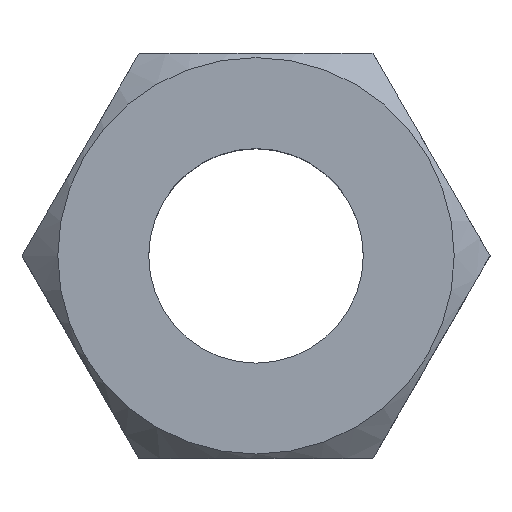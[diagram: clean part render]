
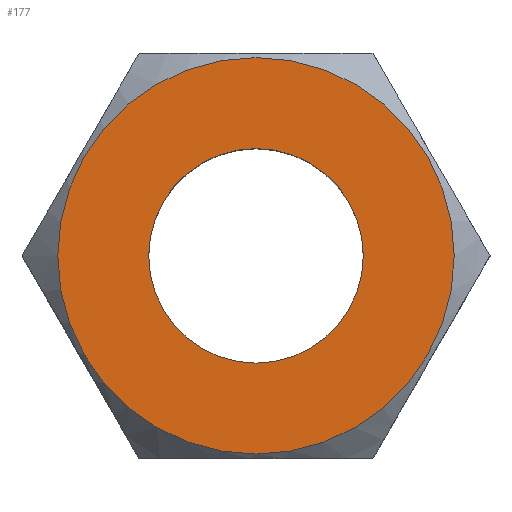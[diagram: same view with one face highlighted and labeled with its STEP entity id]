
A CAD part, top view. The second image highlights one B-rep face of the part: STEP entity #177.
In plain terms, the highlighted planar face has unit normal (0, 0, 1).
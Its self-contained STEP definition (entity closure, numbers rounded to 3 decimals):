
#33=PLANE('',#194);
#52=FACE_BOUND('',#78,.T.);
#63=FACE_OUTER_BOUND('',#77,.T.);
#77=EDGE_LOOP('',(#163));
#78=EDGE_LOOP('',(#164));
#82=CIRCLE('',#183,4.5);
#84=CIRCLE('',#187,8.315);
#86=VERTEX_POINT('',#238);
#94=VERTEX_POINT('',#268);
#102=EDGE_CURVE('',#86,#86,#82,.T.);
#110=EDGE_CURVE('',#94,#94,#84,.T.);
#163=ORIENTED_EDGE('',*,*,#110,.T.);
#164=ORIENTED_EDGE('',*,*,#102,.T.);
#177=ADVANCED_FACE('',(#63,#52),#33,.T.);
#183=AXIS2_PLACEMENT_3D('',#239,#202,#203);
#187=AXIS2_PLACEMENT_3D('',#269,#210,#211);
#194=AXIS2_PLACEMENT_3D('',#306,#230,#231);
#202=DIRECTION('center_axis',(0.,0.,-1.));
#203=DIRECTION('ref_axis',(1.,0.,0.));
#210=DIRECTION('center_axis',(0.,0.,1.));
#211=DIRECTION('ref_axis',(1.,0.,0.));
#230=DIRECTION('center_axis',(0.,0.,1.));
#231=DIRECTION('ref_axis',(1.,0.,0.));
#238=CARTESIAN_POINT('',(-4.5,0.,8.));
#239=CARTESIAN_POINT('Origin',(0.,0.,8.));
#268=CARTESIAN_POINT('',(-8.315,0.,8.));
#269=CARTESIAN_POINT('Origin',(0.,0.,8.));
#306=CARTESIAN_POINT('Origin',(0.,0.,8.));
